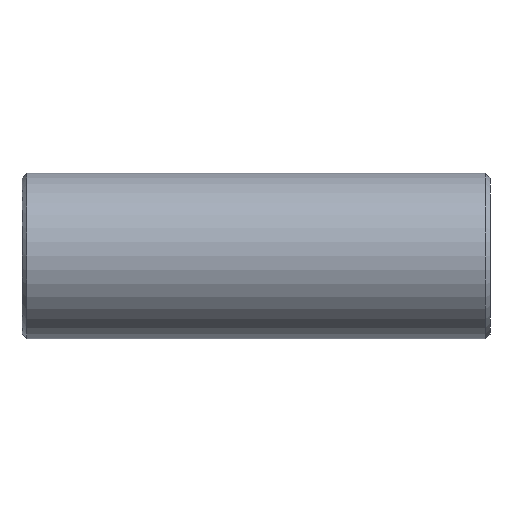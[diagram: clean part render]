
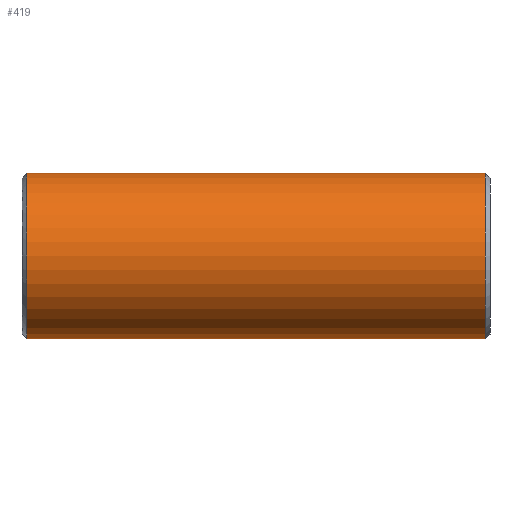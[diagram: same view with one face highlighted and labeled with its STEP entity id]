
A CAD part, front view. The second image highlights one B-rep face of the part: STEP entity #419.
In plain terms, the highlighted cylindrical face has radius 17 mm (diameter 34 mm), a partial arc.
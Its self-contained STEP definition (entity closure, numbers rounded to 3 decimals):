
#231=CARTESIAN_POINT('Vertex',(1.,0.,-17.)) ;
#238=CARTESIAN_POINT('Vertex',(1.,0.,17.)) ;
#267=CARTESIAN_POINT('Axis2P3D Location',(1.,0.,0.)) ;
#271=CARTESIAN_POINT('Vertex',(1.,-17.,0.)) ;
#274=CARTESIAN_POINT('Axis2P3D Location',(1.,0.,0.)) ;
#359=CARTESIAN_POINT('Line Origine',(96.,0.,17.)) ;
#363=CARTESIAN_POINT('Vertex',(95.,0.,17.)) ;
#377=CARTESIAN_POINT('Vertex',(95.,0.,-17.)) ;
#380=CARTESIAN_POINT('Line Origine',(96.,0.,-17.)) ;
#394=CARTESIAN_POINT('Axis2P3D Location',(96.,0.,0.)) ;
#399=CARTESIAN_POINT('Axis2P3D Location',(95.,0.,0.)) ;
#403=CARTESIAN_POINT('Vertex',(95.,-17.,0.)) ;
#406=CARTESIAN_POINT('Axis2P3D Location',(95.,0.,0.)) ;
#268=DIRECTION('Axis2P3D Direction',(1.,0.,-0.)) ;
#275=DIRECTION('Axis2P3D Direction',(1.,0.,-0.)) ;
#360=DIRECTION('Vector Direction',(-1.,0.,0.)) ;
#381=DIRECTION('Vector Direction',(-1.,0.,0.)) ;
#395=DIRECTION('Axis2P3D Direction',(-1.,-0.,-0.)) ;
#396=DIRECTION('Axis2P3D XDirection',(0.,0.,-1.)) ;
#400=DIRECTION('Axis2P3D Direction',(-1.,-0.,-0.)) ;
#407=DIRECTION('Axis2P3D Direction',(-1.,-0.,-0.)) ;
#269=AXIS2_PLACEMENT_3D('Circle Axis2P3D',#267,#268,$) ;
#276=AXIS2_PLACEMENT_3D('Circle Axis2P3D',#274,#275,$) ;
#397=AXIS2_PLACEMENT_3D('Cylinder Axis2P3D',#394,#395,#396) ;
#401=AXIS2_PLACEMENT_3D('Circle Axis2P3D',#399,#400,$) ;
#408=AXIS2_PLACEMENT_3D('Circle Axis2P3D',#406,#407,$) ;
#412=ORIENTED_EDGE('',*,*,#384,.T.) ;
#413=ORIENTED_EDGE('',*,*,#405,.F.) ;
#414=ORIENTED_EDGE('',*,*,#410,.F.) ;
#415=ORIENTED_EDGE('',*,*,#365,.T.) ;
#416=ORIENTED_EDGE('',*,*,#278,.T.) ;
#417=ORIENTED_EDGE('',*,*,#273,.T.) ;
#361=VECTOR('Line Direction',#360,1.) ;
#382=VECTOR('Line Direction',#381,1.) ;
#419=ADVANCED_FACE('352-25X96',(#418),#398,.T.) ;
#270=CIRCLE('generated circle',#269,17.) ;
#277=CIRCLE('generated circle',#276,17.) ;
#402=CIRCLE('generated circle',#401,17.) ;
#409=CIRCLE('generated circle',#408,17.) ;
#398=CYLINDRICAL_SURFACE('generated cylinder',#397,17.) ;
#273=EDGE_CURVE('',#272,#232,#270,.T.) ;
#278=EDGE_CURVE('',#239,#272,#277,.T.) ;
#365=EDGE_CURVE('',#364,#239,#362,.T.) ;
#384=EDGE_CURVE('',#232,#378,#383,.F.) ;
#405=EDGE_CURVE('',#404,#378,#402,.F.) ;
#410=EDGE_CURVE('',#364,#404,#409,.F.) ;
#411=EDGE_LOOP('',(#412,#413,#414,#415,#416,#417)) ;
#418=FACE_OUTER_BOUND('',#411,.T.) ;
#362=LINE('Line',#359,#361) ;
#383=LINE('Line',#380,#382) ;
#232=VERTEX_POINT('',#231) ;
#239=VERTEX_POINT('',#238) ;
#272=VERTEX_POINT('',#271) ;
#364=VERTEX_POINT('',#363) ;
#378=VERTEX_POINT('',#377) ;
#404=VERTEX_POINT('',#403) ;
